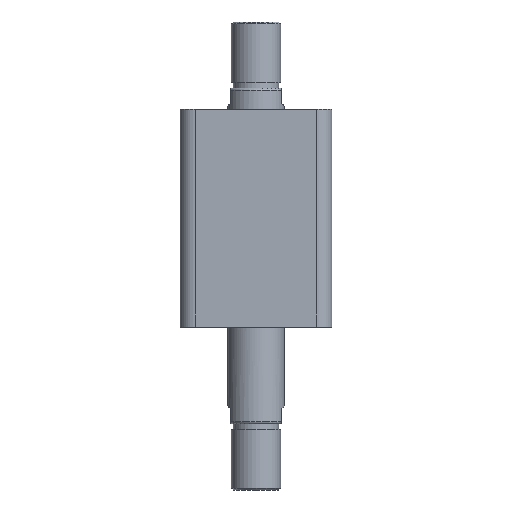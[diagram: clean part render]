
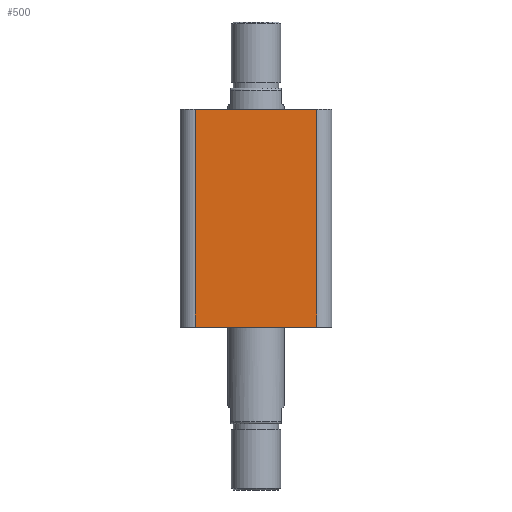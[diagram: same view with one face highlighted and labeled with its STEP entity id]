
A CAD part, front view. The second image highlights one B-rep face of the part: STEP entity #500.
In plain terms, the highlighted planar face has unit normal (0, -1, 0).
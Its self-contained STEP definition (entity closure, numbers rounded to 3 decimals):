
#68 = EDGE_CURVE ( 'NONE', #3461, #3467, #879, .T. ) ;
#69 = EDGE_CURVE ( 'NONE', #2501, #3461, #880, .T. ) ;
#70 = EDGE_CURVE ( 'NONE', #3088, #2501, #883, .T. ) ;
#71 = EDGE_CURVE ( 'NONE', #3088, #3467, #885, .T. ) ;
#276 = AXIS2_PLACEMENT_3D ( 'NONE', #1714, #1721, #1722 ) ;
#500 = ADVANCED_FACE ( 'NONE', ( #2108 ), #1720, .F. ) ;
#879 = LINE ( 'NONE', #1965, #882 ) ;
#880 = LINE ( 'NONE', #1947, #884 ) ;
#882 = VECTOR ( 'NONE', #1955, 1000. ) ;
#883 = LINE ( 'NONE', #1993, #886 ) ;
#884 = VECTOR ( 'NONE', #2005, 1000. ) ;
#885 = LINE ( 'NONE', #2009, #888 ) ;
#886 = VECTOR ( 'NONE', #1972, 1000. ) ;
#888 = VECTOR ( 'NONE', #2004, 1000. ) ;
#1314 = CARTESIAN_POINT ( 'NONE',  ( -32., -40., 115. ) ) ;
#1325 = CARTESIAN_POINT ( 'NONE',  ( 32., -40., 0. ) ) ;
#1326 = CARTESIAN_POINT ( 'NONE',  ( -32., -40., 0. ) ) ;
#1331 = CARTESIAN_POINT ( 'NONE',  ( 32., -40., 115. ) ) ;
#1714 = CARTESIAN_POINT ( 'NONE',  ( -40., -40., 115. ) ) ;
#1720 = PLANE ( 'NONE',  #276 ) ;
#1721 = DIRECTION ( 'NONE',  ( 0., 1., 0. ) ) ;
#1722 = DIRECTION ( 'NONE',  ( 0., 0., 1. ) ) ;
#1933 = ORIENTED_EDGE ( 'NONE', *, *, #71, .F. ) ;
#1934 = ORIENTED_EDGE ( 'NONE', *, *, #70, .T. ) ;
#1947 = CARTESIAN_POINT ( 'NONE',  ( -40., -40., 0. ) ) ;
#1955 = DIRECTION ( 'NONE',  ( 0., 0., 1. ) ) ;
#1965 = CARTESIAN_POINT ( 'NONE',  ( 32., -40., 115. ) ) ;
#1972 = DIRECTION ( 'NONE',  ( 0., 0., -1. ) ) ;
#1993 = CARTESIAN_POINT ( 'NONE',  ( -32., -40., 115. ) ) ;
#2004 = DIRECTION ( 'NONE',  ( 1., 0., 0. ) ) ;
#2005 = DIRECTION ( 'NONE',  ( 1., 0., 0. ) ) ;
#2009 = CARTESIAN_POINT ( 'NONE',  ( -40., -40., 115. ) ) ;
#2108 = FACE_OUTER_BOUND ( 'NONE', #2918, .T. ) ;
#2501 = VERTEX_POINT ( 'NONE', #1326 ) ;
#2884 = ORIENTED_EDGE ( 'NONE', *, *, #68, .T. ) ;
#2885 = ORIENTED_EDGE ( 'NONE', *, *, #69, .T. ) ;
#2918 = EDGE_LOOP ( 'NONE', ( #1933, #1934, #2885, #2884 ) ) ;
#3088 = VERTEX_POINT ( 'NONE', #1314 ) ;
#3461 = VERTEX_POINT ( 'NONE', #1325 ) ;
#3467 = VERTEX_POINT ( 'NONE', #1331 ) ;
